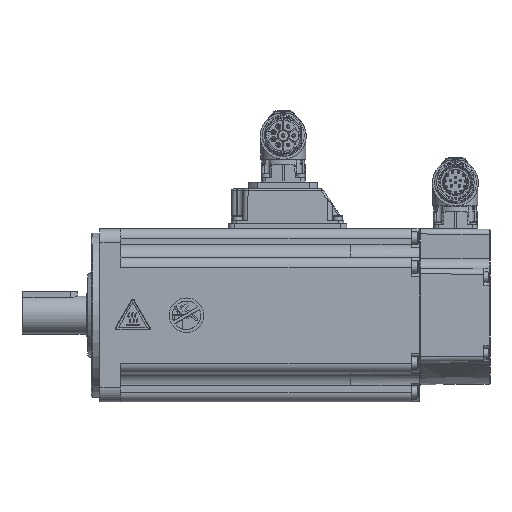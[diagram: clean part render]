
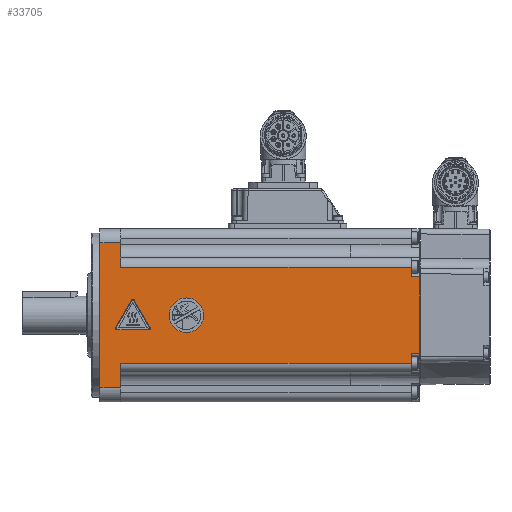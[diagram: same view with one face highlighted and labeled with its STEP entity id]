
A CAD part, front view. The second image highlights one B-rep face of the part: STEP entity #33705.
In plain terms, the highlighted planar face has unit normal (0, -1, 0).
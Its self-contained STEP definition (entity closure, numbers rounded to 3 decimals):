
#33705 = ADVANCED_FACE( '', ( #56948, #56949, #56950 ), #56951, .T. );
#56948 = FACE_BOUND( '', #66502, .T. );
#56949 = FACE_OUTER_BOUND( '', #66503, .T. );
#56950 = FACE_BOUND( '', #66504, .T. );
#56951 = PLANE( '', #66505 );
#59406 = EDGE_CURVE( 'NONE', #70556, #70557, #70558, .T. );
#59794 = EDGE_CURVE( 'NONE', #71196, #71197, #71198, .T. );
#59904 = EDGE_CURVE( '', #71385, #71383, #71386, .T. );
#60167 = EDGE_CURVE( '', #71804, #71802, #71805, .T. );
#60985 = EDGE_CURVE( 'NONE', #73100, #71196, #73101, .T. );
#62304 = EDGE_CURVE( 'NONE', #71197, #75050, #75051, .T. );
#62495 = EDGE_CURVE( '', #75329, #75330, #75331, .F. );
#63022 = EDGE_CURVE( '', #76049, #76049, #76050, .T. );
#64145 = EDGE_CURVE( '', #77549, #71804, #77550, .F. );
#64232 = EDGE_CURVE( '', #77667, #75330, #77668, .T. );
#64311 = EDGE_CURVE( 'NONE', #75050, #70556, #77778, .T. );
#64480 = EDGE_CURVE( '', #77986, #77988, #77989, .T. );
#65342 = EDGE_CURVE( 'NONE', #70557, #73100, #79039, .T. );
#65445 = EDGE_CURVE( '', #77986, #79158, #79160, .T. );
#65802 = EDGE_CURVE( '', #71802, #79565, #79567, .T. );
#65902 = EDGE_CURVE( '', #79565, #71385, #79675, .F. );
#65977 = EDGE_CURVE( '', #79758, #77549, #79759, .T. );
#66094 = EDGE_CURVE( '', #79158, #75329, #79885, .T. );
#66502 = EDGE_LOOP( '', ( #80350 ) );
#66503 = EDGE_LOOP( '', ( #80351, #80352, #80353, #80354, #80355, #80356, #80357, #80358, #80359, #80360, #80361, #80362, #80363 ) );
#66504 = EDGE_LOOP( '', ( #80364, #80365, #80366, #80367, #80368, #80369 ) );
#66505 = AXIS2_PLACEMENT_3D( '', #80370, #80371, #80372 );
#70556 = VERTEX_POINT( 'NONE', #88515 );
#70557 = VERTEX_POINT( 'NONE', #88516 );
#70558 = LINE( '', #88517, #88518 );
#71196 = VERTEX_POINT( 'NONE', #89661 );
#71197 = VERTEX_POINT( '', #89662 );
#71198 = CIRCLE( '', #89663, 1. );
#71383 = VERTEX_POINT( '', #89975 );
#71385 = VERTEX_POINT( '', #89977 );
#71386 = LINE( '', #89978, #89979 );
#71802 = VERTEX_POINT( '', #90872 );
#71804 = VERTEX_POINT( '', #90875 );
#71805 = LINE( '', #90876, #90877 );
#73100 = VERTEX_POINT( 'NONE', #93623 );
#73101 = LINE( '', #93624, #93625 );
#75050 = VERTEX_POINT( 'NONE', #97795 );
#75051 = LINE( '', #97796, #97797 );
#75329 = VERTEX_POINT( '', #98572 );
#75330 = VERTEX_POINT( '', #98573 );
#75331 = LINE( '', #98574, #98575 );
#76049 = VERTEX_POINT( '', #100140 );
#76050 = CIRCLE( '', #100141, 10. );
#77549 = VERTEX_POINT( '', #103205 );
#77550 = LINE( '', #103206, #103207 );
#77667 = VERTEX_POINT( '', #103545 );
#77668 = LINE( '', #103546, #103547 );
#77778 = CIRCLE( '', #103819, 1. );
#77986 = VERTEX_POINT( '', #104379 );
#77988 = VERTEX_POINT( '', #104381 );
#77989 = LINE( '', #104382, #104383 );
#79039 = CIRCLE( '', #106415, 1. );
#79158 = VERTEX_POINT( '', #106628 );
#79160 = LINE( '', #106630, #106631 );
#79565 = VERTEX_POINT( '', #107320 );
#79567 = LINE( '', #107322, #107323 );
#79675 = LINE( '', #107517, #107518 );
#79758 = VERTEX_POINT( '', #107634 );
#79759 = LINE( '', #107635, #107636 );
#79885 = LINE( '', #107805, #107806 );
#80350 = ORIENTED_EDGE( '', *, *, #63022, .F. );
#80351 = ORIENTED_EDGE( '', *, *, #108379, .T. );
#80352 = ORIENTED_EDGE( '', *, *, #65977, .T. );
#80353 = ORIENTED_EDGE( '', *, *, #64145, .T. );
#80354 = ORIENTED_EDGE( '', *, *, #60167, .T. );
#80355 = ORIENTED_EDGE( '', *, *, #65802, .T. );
#80356 = ORIENTED_EDGE( '', *, *, #65902, .T. );
#80357 = ORIENTED_EDGE( '', *, *, #59904, .T. );
#80358 = ORIENTED_EDGE( '', *, *, #108380, .T. );
#80359 = ORIENTED_EDGE( '', *, *, #64480, .F. );
#80360 = ORIENTED_EDGE( '', *, *, #65445, .T. );
#80361 = ORIENTED_EDGE( '', *, *, #66094, .T. );
#80362 = ORIENTED_EDGE( '', *, *, #62495, .T. );
#80363 = ORIENTED_EDGE( '', *, *, #64232, .F. );
#80364 = ORIENTED_EDGE( '', *, *, #65342, .F. );
#80365 = ORIENTED_EDGE( '', *, *, #59406, .F. );
#80366 = ORIENTED_EDGE( '', *, *, #64311, .F. );
#80367 = ORIENTED_EDGE( '', *, *, #62304, .F. );
#80368 = ORIENTED_EDGE( '', *, *, #59794, .F. );
#80369 = ORIENTED_EDGE( '', *, *, #60985, .F. );
#80370 = CARTESIAN_POINT( '', ( 66.642, -50., -50. ) );
#80371 = DIRECTION( '', ( 0., -1., 0. ) );
#80372 = DIRECTION( '', ( 1., 0., 0. ) );
#88515 = CARTESIAN_POINT( '', ( -175.116, -50., 8.801 ) );
#88516 = CARTESIAN_POINT( '', ( -184.249, -50., -7. ) );
#88517 = CARTESIAN_POINT( '', ( -184.249, -50., -7. ) );
#88518 = VECTOR( '', #111264, 1000. );
#89661 = CARTESIAN_POINT( '', ( -165.117, -50., -8.5 ) );
#89662 = CARTESIAN_POINT( '', ( -164.251, -50., -7. ) );
#89663 = AXIS2_PLACEMENT_3D( '', #111762, #111763, #111764 );
#89975 = CARTESIAN_POINT( '', ( -13.25, -50., 27.75 ) );
#89977 = CARTESIAN_POINT( '', ( -13.25, -50., 22.25 ) );
#89978 = CARTESIAN_POINT( '', ( -13.25, -50., 50. ) );
#89979 = VECTOR( '', #111918, 1000. );
#90872 = CARTESIAN_POINT( '', ( -8.25, -50., 0. ) );
#90875 = CARTESIAN_POINT( '', ( -8.444, -50., -22.25 ) );
#90876 = CARTESIAN_POINT( '', ( -7.818, -50., 49.545 ) );
#90877 = VECTOR( '', #112212, 1000. );
#93623 = CARTESIAN_POINT( '', ( -183.383, -50., -8.5 ) );
#93624 = CARTESIAN_POINT( '', ( -183.383, -50., -8.5 ) );
#93625 = VECTOR( '', #113206, 1000. );
#97795 = CARTESIAN_POINT( '', ( -173.384, -50., 8.801 ) );
#97796 = CARTESIAN_POINT( '', ( -173.384, -50., 8.801 ) );
#97797 = VECTOR( '', #114705, 1000. );
#98572 = CARTESIAN_POINT( '', ( -193.25, -50., -42. ) );
#98573 = CARTESIAN_POINT( '', ( -181.25, -50., -42. ) );
#98574 = CARTESIAN_POINT( '', ( 66.642, -50., -42. ) );
#98575 = VECTOR( '', #114904, 1000. );
#100140 = CARTESIAN_POINT( '', ( -133.25, -50., 0. ) );
#100141 = AXIS2_PLACEMENT_3D( '', #115433, #115434, #115435 );
#103205 = CARTESIAN_POINT( '', ( -13.25, -50., -22.25 ) );
#103206 = CARTESIAN_POINT( '', ( -8.25, -50., -22.25 ) );
#103207 = VECTOR( '', #116609, 1000. );
#103545 = CARTESIAN_POINT( '', ( -181.25, -50., -27.75 ) );
#103546 = CARTESIAN_POINT( '', ( -181.25, -50., -50. ) );
#103547 = VECTOR( '', #116683, 1000. );
#103819 = AXIS2_PLACEMENT_3D( '', #116767, #116768, #116769 );
#104379 = CARTESIAN_POINT( '', ( -181.25, -50., 42. ) );
#104381 = CARTESIAN_POINT( '', ( -181.25, -50., 27.75 ) );
#104382 = CARTESIAN_POINT( '', ( -181.25, -50., -50. ) );
#104383 = VECTOR( '', #116966, 1000. );
#106415 = AXIS2_PLACEMENT_3D( '', #117802, #117803, #117804 );
#106628 = CARTESIAN_POINT( '', ( -193.25, -50., 42. ) );
#106630 = CARTESIAN_POINT( '', ( 66.642, -50., 42. ) );
#106631 = VECTOR( '', #117891, 1000. );
#107320 = CARTESIAN_POINT( '', ( -8.444, -50., 22.25 ) );
#107322 = CARTESIAN_POINT( '', ( -8.69, -50., 50.448 ) );
#107323 = VECTOR( '', #118177, 1000. );
#107517 = CARTESIAN_POINT( '', ( -13.25, -50., 22.25 ) );
#107518 = VECTOR( '', #118219, 1000. );
#107634 = CARTESIAN_POINT( '', ( -13.25, -50., -27.75 ) );
#107635 = CARTESIAN_POINT( '', ( -13.25, -50., 50. ) );
#107636 = VECTOR( '', #118258, 1000. );
#107805 = CARTESIAN_POINT( '', ( -193.25, -50., -50. ) );
#107806 = VECTOR( '', #118321, 1000. );
#108379 = EDGE_CURVE( '', #77667, #79758, #118468, .T. );
#108380 = EDGE_CURVE( '', #71383, #77988, #118469, .T. );
#111264 = DIRECTION( '', ( -0.5, 0., -0.866 ) );
#111762 = CARTESIAN_POINT( '', ( -165.117, -50., -7.5 ) );
#111763 = DIRECTION( '', ( 0., -1., 0. ) );
#111764 = DIRECTION( '', ( 1., 0., 0. ) );
#111918 = DIRECTION( '', ( 0., 0., 1. ) );
#112212 = DIRECTION( '', ( 0.009, 0., 1. ) );
#113206 = DIRECTION( '', ( 1., 0., 0. ) );
#114705 = DIRECTION( '', ( -0.5, 0., 0.866 ) );
#114904 = DIRECTION( '', ( -1., 0., 0. ) );
#115433 = CARTESIAN_POINT( '', ( -143.25, -50., 0. ) );
#115434 = DIRECTION( '', ( 0., -1., 0. ) );
#115435 = DIRECTION( '', ( 1., 0., 0. ) );
#116609 = DIRECTION( '', ( -1., 0., 0. ) );
#116683 = DIRECTION( '', ( 0., 0., -1. ) );
#116767 = CARTESIAN_POINT( '', ( -174.25, -50., 8.301 ) );
#116768 = DIRECTION( '', ( 0., -1., 0. ) );
#116769 = DIRECTION( '', ( -1., 0., 0. ) );
#116966 = DIRECTION( '', ( 0., 0., -1. ) );
#117802 = CARTESIAN_POINT( '', ( -183.383, -50., -7.5 ) );
#117803 = DIRECTION( '', ( 0., -1., 0. ) );
#117804 = DIRECTION( '', ( -1., 0., 0. ) );
#117891 = DIRECTION( '', ( -1., 0., 0. ) );
#118177 = DIRECTION( '', ( -0.009, 0., 1. ) );
#118219 = DIRECTION( '', ( 1., 0., 0. ) );
#118258 = DIRECTION( '', ( 0., 0., 1. ) );
#118321 = DIRECTION( '', ( 0., 0., -1. ) );
#118468 = LINE( '', #119040, #119041 );
#118469 = LINE( '', #119042, #119043 );
#119040 = CARTESIAN_POINT( '', ( 66.642, -50., -27.75 ) );
#119041 = VECTOR( '', #119839, 1000. );
#119042 = CARTESIAN_POINT( '', ( 66.642, -50., 27.75 ) );
#119043 = VECTOR( '', #119840, 1000. );
#119839 = DIRECTION( '', ( 1., 0., 0. ) );
#119840 = DIRECTION( '', ( -1., 0., 0. ) );
